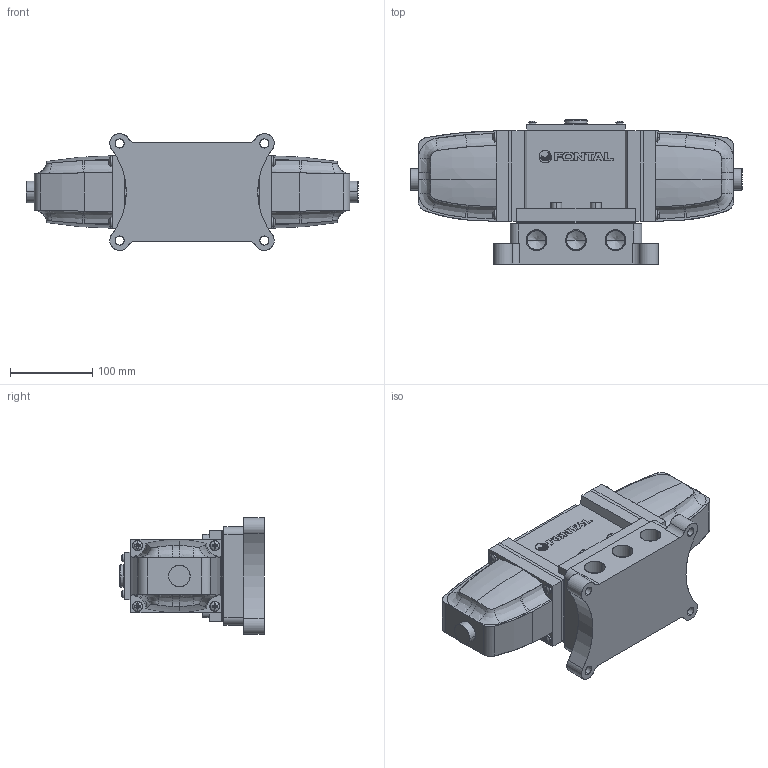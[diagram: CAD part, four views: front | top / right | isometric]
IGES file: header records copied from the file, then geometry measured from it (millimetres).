
Start section: SolidWorks IGES file using analytic representation for surfaces
Global section: file name: D:\Custom\3D繪製\A\A25\AD2425-06-##.IGS,1; native system: 5HSolidWorks 2014; preprocessor: SolidWorks 2014; author: Chieh_Lu; date: 151223.135437; units: millimetre
Bounding box: 403.8 x 175.5 x 142 mm (x, y, z)
Surface area: 392945.7 mm2 (no closed solid volume)
Topology: 0 solids, 0 shells, 880 faces, 9424 edges, 9382 vertices
Faces by surface type: bspline 561, revolution 319
